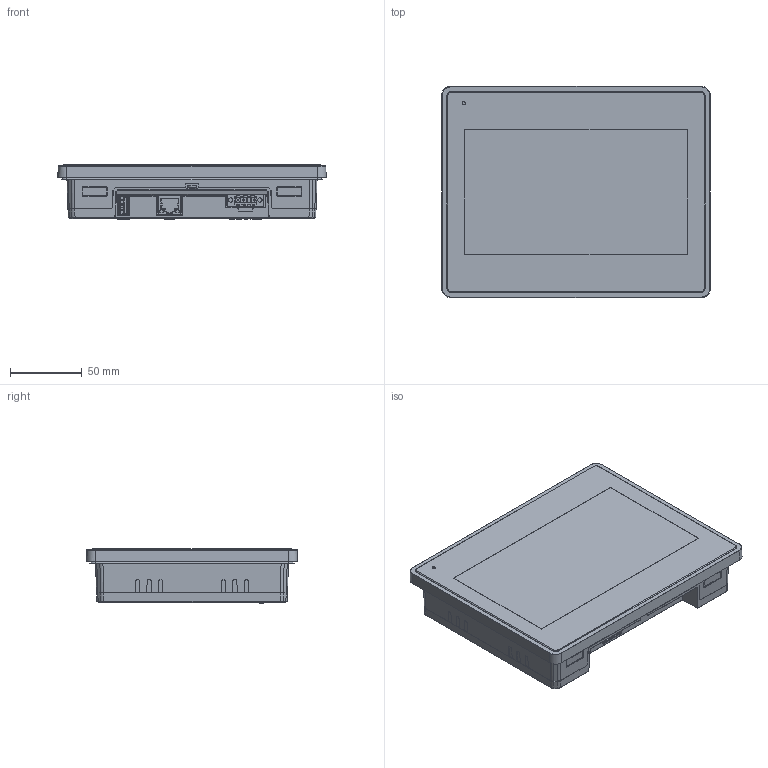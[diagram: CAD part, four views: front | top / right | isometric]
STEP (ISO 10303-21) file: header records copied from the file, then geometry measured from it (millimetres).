
FILE_DESCRIPTION (( 'STEP AP214' ), '1' );
FILE_NAME ('eX207 Web.STEP', '2024-02-16T08:20:51', ( '' ), ( '' ), 'SwSTEP 2.0', 'SolidWorks 2023', '' );
FILE_SCHEMA (( 'AUTOMOTIVE_DESIGN' ));
Length unit declared in the file: millimetre
Products named in the file (1): eX207 Web
Bounding box: 187.56 x 147.56 x 37.85 mm (x, y, z)
Volume: 864009.7 mm3; surface area: 97618.1 mm2
Topology: 1 solids, 14 shells, 2762 faces, 7155 edges, 4475 vertices
Faces by surface type: plane 1409, cylinder 582, bspline 336, cone 218, torus 174, sphere 43
Entity records: 91848 total; most frequent: CARTESIAN_POINT 27158, ORIENTED_EDGE 14236, DIRECTION 12385, EDGE_CURVE 7118, VERTEX_POINT 4475, LINE 4355, VECTOR 4355, AXIS2_PLACEMENT_3D 4015
